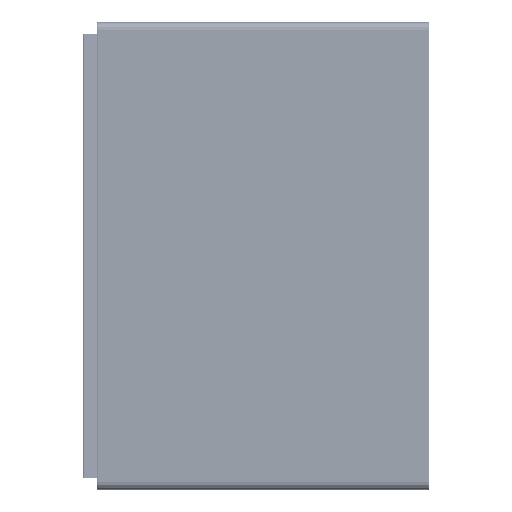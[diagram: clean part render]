
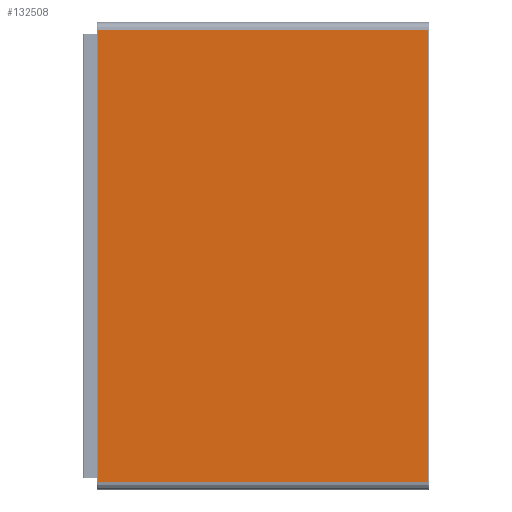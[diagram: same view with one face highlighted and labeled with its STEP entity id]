
A CAD part, front view. The second image highlights one B-rep face of the part: STEP entity #132508.
In plain terms, the highlighted planar face has unit normal (0, -1, 0) as drawn and (0, 1, 0) by its records, which use the part's own axes.
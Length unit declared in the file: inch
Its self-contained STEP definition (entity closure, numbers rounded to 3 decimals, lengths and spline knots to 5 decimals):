
#23777 = DIRECTION ( 'NONE',  ( 0., 0., -1. ) ) ;
#23939 = ORIENTED_EDGE ( 'NONE', *, *, #23977, .T. ) ;
#23977 = EDGE_CURVE ( 'NONE', #82589, #132531, #91510, .T. ) ;
#25545 = FACE_OUTER_BOUND ( 'NONE', #80044, .T. ) ;
#27782 = DIRECTION ( 'NONE',  ( 0., 1., 0. ) ) ;
#30687 = EDGE_CURVE ( 'NONE', #128674, #82589, #96983, .T. ) ;
#40540 = DIRECTION ( 'NONE',  ( 1., 0., 0. ) ) ;
#43311 = CARTESIAN_POINT ( 'NONE',  ( 1.8525, 0.1, -2.53125 ) ) ;
#60340 = VECTOR ( 'NONE', #23777, 39.37008 ) ;
#66393 = CARTESIAN_POINT ( 'NONE',  ( -1.8625, 0.1, -2.53125 ) ) ;
#67336 = CARTESIAN_POINT ( 'NONE',  ( 1.8525, 0.1, 2.53125 ) ) ;
#70456 = DIRECTION ( 'NONE',  ( 0., 0., 1. ) ) ;
#71606 = ORIENTED_EDGE ( 'NONE', *, *, #90312, .T. ) ;
#74018 = VECTOR ( 'NONE', #113013, 39.37008 ) ;
#78329 = VECTOR ( 'NONE', #70456, 39.37008 ) ;
#80044 = EDGE_LOOP ( 'NONE', ( #71606, #145325, #82867, #23939 ) ) ;
#82589 = VERTEX_POINT ( 'NONE', #67336 ) ;
#82867 = ORIENTED_EDGE ( 'NONE', *, *, #30687, .T. ) ;
#90312 = EDGE_CURVE ( 'NONE', #132531, #141253, #100299, .T. ) ;
#90934 = VECTOR ( 'NONE', #40540, 39.37008 ) ;
#91510 = LINE ( 'NONE', #136658, #60340 ) ;
#95603 = AXIS2_PLACEMENT_3D ( 'NONE', #142855, #27782, #119557 ) ;
#96983 = LINE ( 'NONE', #109751, #90934 ) ;
#100299 = LINE ( 'NONE', #66393, #74018 ) ;
#103908 = CARTESIAN_POINT ( 'NONE',  ( -1.8525, 0.1, -2.53125 ) ) ;
#109751 = CARTESIAN_POINT ( 'NONE',  ( 1.8625, 0.1, 2.53125 ) ) ;
#113013 = DIRECTION ( 'NONE',  ( -1., 0., 0. ) ) ;
#117110 = LINE ( 'NONE', #127605, #78329 ) ;
#119557 = DIRECTION ( 'NONE',  ( 0., 0., 1. ) ) ;
#121515 = EDGE_CURVE ( 'NONE', #141253, #128674, #117110, .T. ) ;
#121674 = CARTESIAN_POINT ( 'NONE',  ( -1.8525, 0.1, 2.53125 ) ) ;
#127605 = CARTESIAN_POINT ( 'NONE',  ( -1.8525, 0.1, 2.53125 ) ) ;
#128674 = VERTEX_POINT ( 'NONE', #121674 ) ;
#130835 = PLANE ( 'NONE',  #95603 ) ;
#132508 = ADVANCED_FACE ( 'NONE', ( #25545 ), #130835, .T. ) ;
#132531 = VERTEX_POINT ( 'NONE', #43311 ) ;
#136658 = CARTESIAN_POINT ( 'NONE',  ( 1.8525, 0.1, -2.53125 ) ) ;
#141253 = VERTEX_POINT ( 'NONE', #103908 ) ;
#142855 = CARTESIAN_POINT ( 'NONE',  ( 0., 0.1, 0. ) ) ;
#145325 = ORIENTED_EDGE ( 'NONE', *, *, #121515, .T. ) ;
